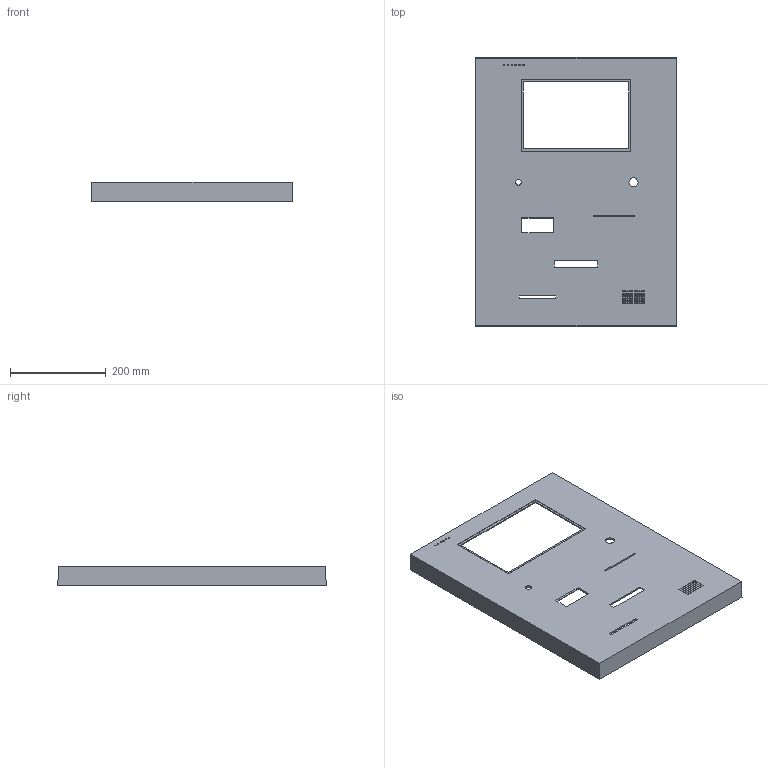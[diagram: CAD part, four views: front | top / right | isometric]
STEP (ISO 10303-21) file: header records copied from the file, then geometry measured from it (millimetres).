
FILE_DESCRIPTION(('Open CASCADE Model'),'2;1');
FILE_NAME('Open CASCADE Shape Model','2026-09-13T22:16:26',('Author'),( 'Open CASCADE'),'Open CASCADE STEP processor 7.9','Open CASCADE 7.9' ,'Unknown');
FILE_SCHEMA(('AUTOMOTIVE_DESIGN { 1 0 10303 214 1 1 1 1 }'));
Length unit declared in the file: millimetre
Products named in the file (1): Open CASCADE STEP translator 7.9 1
Bounding box: 420 x 560 x 40 mm (x, y, z)
Volume: 874162.2 mm3; surface area: 616905.3 mm2
Topology: 1 solids, 1 shells, 327 faces, 915 edges, 610 vertices
Faces by surface type: plane 247, cylinder 80
Full cylindrical faces by diameter (mm): 2.5 x60, 3 x6, 5.6 x6, 10 x6, 12 x1, 19 x1
Entity records: 22954 total; most frequent: CARTESIAN_POINT 5745, DIRECTION 2869, ORIENTED_EDGE 1830, PCURVE 1830, DEFINITIONAL_REPRESENTATION 1830, LINE 1623, VECTOR 1623, EDGE_CURVE 915
